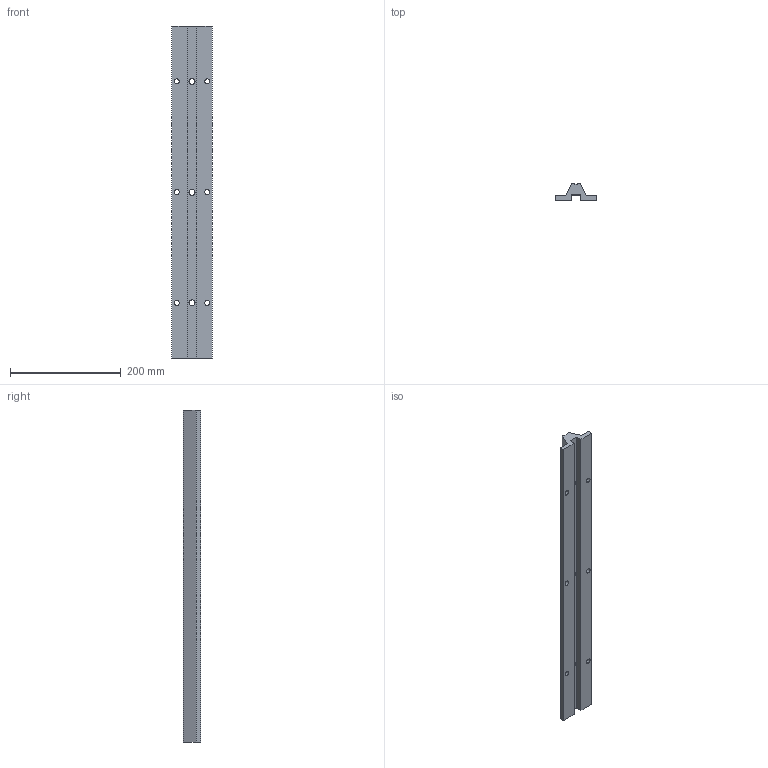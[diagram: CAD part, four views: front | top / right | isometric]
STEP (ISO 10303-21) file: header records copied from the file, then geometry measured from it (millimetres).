
FILE_DESCRIPTION (( 'STEP AP203' ), '1' );
FILE_NAME ('KWU50-40 T1-T2.step', '2020-03-23T07:54:45', ( '' ), ( '' ), 'SwSTEP 2.0', 'SolidWorks 2019', '' );
FILE_SCHEMA (( 'CONFIG_CONTROL_DESIGN' ));
Length unit declared in the file: millimetre
Products named in the file (2): KWU50-40 T1-T2
Bounding box: 73 x 31.4 x 599.5 mm (x, y, z)
Volume: 588140.4 mm3; surface area: 132058.2 mm2
Topology: 1 solids, 1 shells, 33 faces, 96 edges, 62 vertices
Faces by surface type: cylinder 18, plane 15
Entity records: 1283 total; most frequent: CARTESIAN_POINT 211, ORIENTED_EDGE 192, DIRECTION 190, EDGE_CURVE 96, AXIS2_PLACEMENT_3D 65, VERTEX_POINT 62, VECTOR 60, LINE 60
